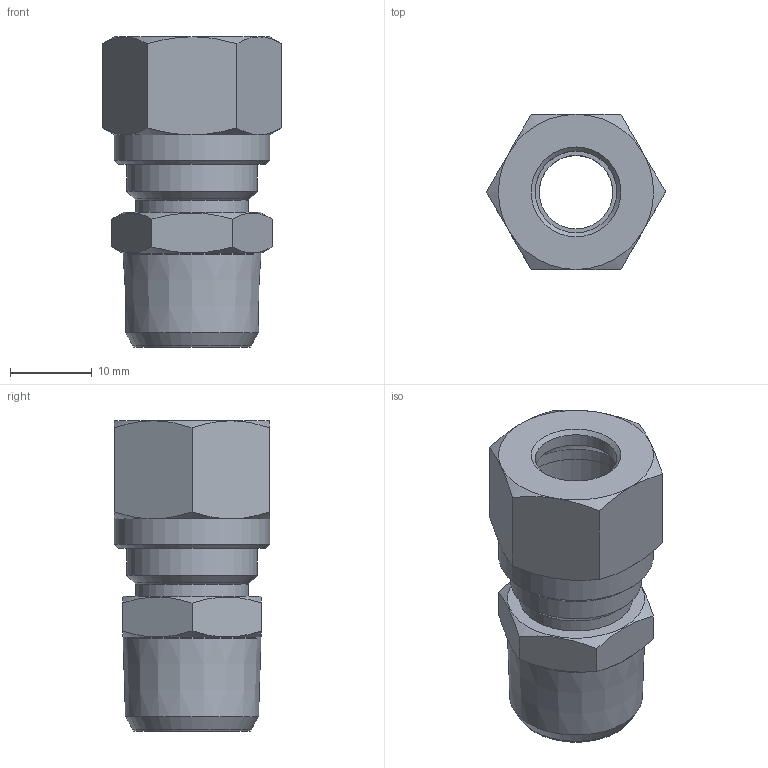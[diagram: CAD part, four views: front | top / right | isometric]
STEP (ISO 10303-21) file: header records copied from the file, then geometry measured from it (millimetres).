
FILE_DESCRIPTION(('Bauteilbeschreibung','HiCAD-Model','HiCAD-STEP-TRANSLATION','Bauteilbeschreibung'),'2;1');
FILE_NAME('B:/ABGLEICH/ZEICHNUNGEN/STEP FÜR INTERNET/STEP/201/94808_201_10_3-8.STP','2011-11-10T07:50:59+00:00',('Konstrukteur'),('Konstrukteur Firma GmbH'),' HiCAD neXt 2008, Step 3.1.1401.2J ','HiCAD neXt 2008','confidential');
FILE_SCHEMA(('AUTOMOTIVE_DESIGN { 1 2 10303 214 0 1 1 1 }'));
Length unit declared in the file: millimetre
Products named in the file (8): A4808_201_10_3_8; A6804; A68040; DIN 13_M16X1_5; A4807; A48070; DIN0130M16X105; R 3_8
Assembly tree (7 placements, depth 3):
  A4808_201_10_3_8
    A6804
    A68040
      DIN 13_M16X1_5
    A4807
    A48070
      DIN0130M16X105
      R 3_8
Bounding box: 21.94 x 19 x 38 mm (x, y, z)
Volume: 6248.5 mm3; surface area: 7470.6 mm2
Topology: 5 solids, 5 shells, 64 faces, 141 edges, 87 vertices
Faces by surface type: cone 29, plane 22, cylinder 13
Full cylindrical faces by diameter (mm): 9 x1, 10 x2, 13.8 x1, 14.16 x4, 16 x3, 16.893 x1, 19 x1
Entity records: 2163 total; most frequent: CARTESIAN_POINT 322, DIRECTION 268, ORIENTED_EDGE 196, AXIS2_PLACEMENT_3D 128, EDGE_LOOP 104, COLOUR_RGB 103, PRESENTATION_STYLE_ASSIGNMENT 103, CURVE_STYLE 98
